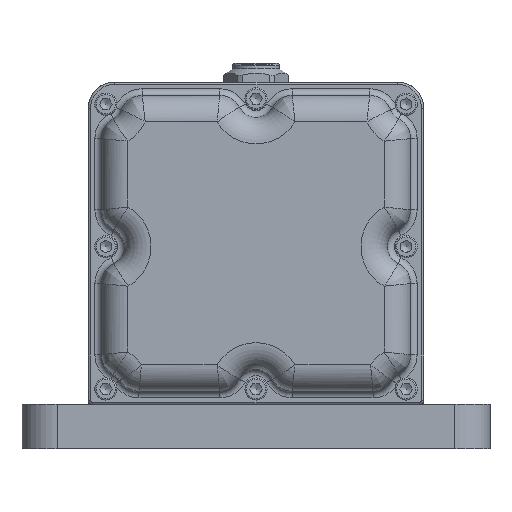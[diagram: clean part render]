
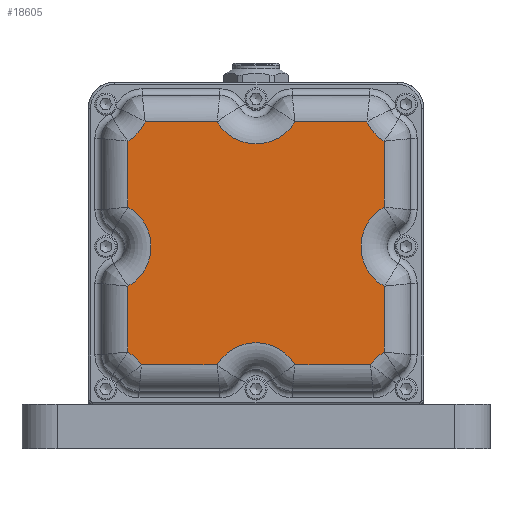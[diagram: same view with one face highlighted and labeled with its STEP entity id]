
A CAD part, front view. The second image highlights one B-rep face of the part: STEP entity #18605.
In plain terms, the highlighted planar face has unit normal (0, -1, 0).
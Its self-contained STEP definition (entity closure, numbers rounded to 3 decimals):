
#17706=CARTESIAN_POINT('',(58.,-268.,53.604));
#17707=VERTEX_POINT('',#17706);
#17726=CARTESIAN_POINT('',(58.,-268.,23.741));
#17727=VERTEX_POINT('',#17726);
#17728=CARTESIAN_POINT('',(58.,-268.,53.604));
#17729=DIRECTION('',(0.0,0.0,-1.0));
#17730=VECTOR('',#17729,29.864);
#17731=LINE('',#17728,#17730);
#17732=EDGE_CURVE('',#17707,#17727,#17731,.T.);
#17932=CARTESIAN_POINT('',(-58.0,-268.,89.396));
#17933=VERTEX_POINT('',#17932);
#17953=CARTESIAN_POINT('',(-58.,-268.,119.259));
#17954=VERTEX_POINT('',#17953);
#17955=CARTESIAN_POINT('',(-58.,-268.,89.396));
#17956=DIRECTION('',(0.0,0.0,1.0));
#17957=VECTOR('',#17956,29.864);
#17958=LINE('',#17955,#17957);
#17959=EDGE_CURVE('',#17933,#17954,#17958,.T.);
#18179=CARTESIAN_POINT('',(58.,-268.,89.396));
#18180=VERTEX_POINT('',#18179);
#18376=CARTESIAN_POINT('',(-58.,-268.,53.604));
#18377=VERTEX_POINT('',#18376);
#18484=CARTESIAN_POINT('',(0.,-268.,73.));
#18485=DIRECTION('',(0.0,1.0,0.0));
#18486=DIRECTION('',(-1.0,0.0,0.0));
#18487=AXIS2_PLACEMENT_3D('',#18484,#18485,#18486);
#18488=PLANE('',#18487);
#18489=CARTESIAN_POINT('',(-50.217,-268.,128.));
#18490=VERTEX_POINT('',#18489);
#18491=CARTESIAN_POINT('',(-17.607,-268.,128.));
#18492=VERTEX_POINT('',#18491);
#18493=CARTESIAN_POINT('',(-50.217,-268.,128.));
#18494=DIRECTION('',(1.0,0.0,0.0));
#18495=VECTOR('',#18494,32.61);
#18496=LINE('',#18493,#18495);
#18497=EDGE_CURVE('',#18490,#18492,#18496,.T.);
#18498=ORIENTED_EDGE('',*,*,#18497,.F.);
#18499=CARTESIAN_POINT('',(-68.,-268.,136.));
#18500=DIRECTION('',(0.,-1.0,0.));
#18501=DIRECTION('',(0.75,0.,-0.662));
#18502=AXIS2_PLACEMENT_3D('',#18499,#18500,#18501);
#18503=CIRCLE('',#18502,19.5);
#18504=EDGE_CURVE('',#17954,#18490,#18503,.T.);
#18505=ORIENTED_EDGE('',*,*,#18504,.F.);
#18506=ORIENTED_EDGE('',*,*,#17959,.F.);
#18507=CARTESIAN_POINT('',(-68.0,-268.,71.5));
#18508=DIRECTION('',(0.0,-1.0,0.0));
#18509=DIRECTION('',(1.0,0.0,0.0));
#18510=AXIS2_PLACEMENT_3D('',#18507,#18508,#18509);
#18511=CIRCLE('',#18510,20.5);
#18512=EDGE_CURVE('',#18377,#17933,#18511,.T.);
#18513=ORIENTED_EDGE('',*,*,#18512,.F.);
#18514=CARTESIAN_POINT('',(-58.,-268.,23.741));
#18515=VERTEX_POINT('',#18514);
#18516=CARTESIAN_POINT('',(-58.,-268.,23.741));
#18517=DIRECTION('',(0.0,0.0,1.0));
#18518=VECTOR('',#18517,29.864);
#18519=LINE('',#18516,#18518);
#18520=EDGE_CURVE('',#18515,#18377,#18519,.T.);
#18521=ORIENTED_EDGE('',*,*,#18520,.F.);
#18522=CARTESIAN_POINT('',(-51.899,-268.,18.));
#18523=VERTEX_POINT('',#18522);
#18524=CARTESIAN_POINT('',(-68.,-268.,7.));
#18525=DIRECTION('',(0.,-1.0,0.));
#18526=DIRECTION('',(0.684,0.,0.73));
#18527=AXIS2_PLACEMENT_3D('',#18524,#18525,#18526);
#18528=CIRCLE('',#18527,19.5);
#18529=EDGE_CURVE('',#18523,#18515,#18528,.T.);
#18530=ORIENTED_EDGE('',*,*,#18529,.F.);
#18531=CARTESIAN_POINT('',(-17.607,-268.,18.));
#18532=VERTEX_POINT('',#18531);
#18533=CARTESIAN_POINT('',(-17.607,-268.,18.));
#18534=DIRECTION('',(-1.0,0.0,0.0));
#18535=VECTOR('',#18534,34.292);
#18536=LINE('',#18533,#18535);
#18537=EDGE_CURVE('',#18532,#18523,#18536,.T.);
#18538=ORIENTED_EDGE('',*,*,#18537,.F.);
#18539=CARTESIAN_POINT('',(17.607,-268.,18.));
#18540=VERTEX_POINT('',#18539);
#18541=CARTESIAN_POINT('',(0.,-268.,7.5));
#18542=DIRECTION('',(0.0,-1.0,0.0));
#18543=DIRECTION('',(0.0,0.0,1.0));
#18544=AXIS2_PLACEMENT_3D('',#18541,#18542,#18543);
#18545=CIRCLE('',#18544,20.5);
#18546=EDGE_CURVE('',#18540,#18532,#18545,.T.);
#18547=ORIENTED_EDGE('',*,*,#18546,.F.);
#18548=CARTESIAN_POINT('',(51.899,-268.,18.));
#18549=VERTEX_POINT('',#18548);
#18550=CARTESIAN_POINT('',(51.899,-268.,18.));
#18551=DIRECTION('',(-1.0,0.0,0.0));
#18552=VECTOR('',#18551,34.292);
#18553=LINE('',#18550,#18552);
#18554=EDGE_CURVE('',#18549,#18540,#18553,.T.);
#18555=ORIENTED_EDGE('',*,*,#18554,.F.);
#18556=CARTESIAN_POINT('',(68.,-268.,7.));
#18557=DIRECTION('',(0.,-1.0,0.));
#18558=DIRECTION('',(-0.684,0.,0.73));
#18559=AXIS2_PLACEMENT_3D('',#18556,#18557,#18558);
#18560=CIRCLE('',#18559,19.5);
#18561=EDGE_CURVE('',#17727,#18549,#18560,.T.);
#18562=ORIENTED_EDGE('',*,*,#18561,.F.);
#18563=ORIENTED_EDGE('',*,*,#17732,.F.);
#18564=CARTESIAN_POINT('',(68.0,-268.,71.5));
#18565=DIRECTION('',(0.0,-1.0,0.0));
#18566=DIRECTION('',(-1.0,0.0,0.0));
#18567=AXIS2_PLACEMENT_3D('',#18564,#18565,#18566);
#18568=CIRCLE('',#18567,20.5);
#18569=EDGE_CURVE('',#18180,#17707,#18568,.T.);
#18570=ORIENTED_EDGE('',*,*,#18569,.F.);
#18571=CARTESIAN_POINT('',(58.,-268.,119.259));
#18572=VERTEX_POINT('',#18571);
#18573=CARTESIAN_POINT('',(58.,-268.,119.259));
#18574=DIRECTION('',(0.0,0.0,-1.0));
#18575=VECTOR('',#18574,29.864);
#18576=LINE('',#18573,#18575);
#18577=EDGE_CURVE('',#18572,#18180,#18576,.T.);
#18578=ORIENTED_EDGE('',*,*,#18577,.F.);
#18579=CARTESIAN_POINT('',(50.217,-268.,128.));
#18580=VERTEX_POINT('',#18579);
#18581=CARTESIAN_POINT('',(68.,-268.,136.));
#18582=DIRECTION('',(0.,-1.0,0.));
#18583=DIRECTION('',(-0.75,0.,-0.662));
#18584=AXIS2_PLACEMENT_3D('',#18581,#18582,#18583);
#18585=CIRCLE('',#18584,19.5);
#18586=EDGE_CURVE('',#18580,#18572,#18585,.T.);
#18587=ORIENTED_EDGE('',*,*,#18586,.F.);
#18588=CARTESIAN_POINT('',(17.607,-268.,128.));
#18589=VERTEX_POINT('',#18588);
#18590=CARTESIAN_POINT('',(17.607,-268.,128.));
#18591=DIRECTION('',(1.0,0.0,0.0));
#18592=VECTOR('',#18591,32.61);
#18593=LINE('',#18590,#18592);
#18594=EDGE_CURVE('',#18589,#18580,#18593,.T.);
#18595=ORIENTED_EDGE('',*,*,#18594,.F.);
#18596=CARTESIAN_POINT('',(0.,-268.,138.5));
#18597=DIRECTION('',(0.0,-1.0,0.0));
#18598=DIRECTION('',(0.0,0.0,-1.0));
#18599=AXIS2_PLACEMENT_3D('',#18596,#18597,#18598);
#18600=CIRCLE('',#18599,20.5);
#18601=EDGE_CURVE('',#18492,#18589,#18600,.T.);
#18602=ORIENTED_EDGE('',*,*,#18601,.F.);
#18603=EDGE_LOOP('',(#18498,#18505,#18506,#18513,#18521,#18530,#18538,#18547,#18555,#18562,#18563,#18570,#18578,#18587,#18595,#18602));
#18604=FACE_OUTER_BOUND('',#18603,.T.);
#18605=ADVANCED_FACE('',(#18604),#18488,.F.);
